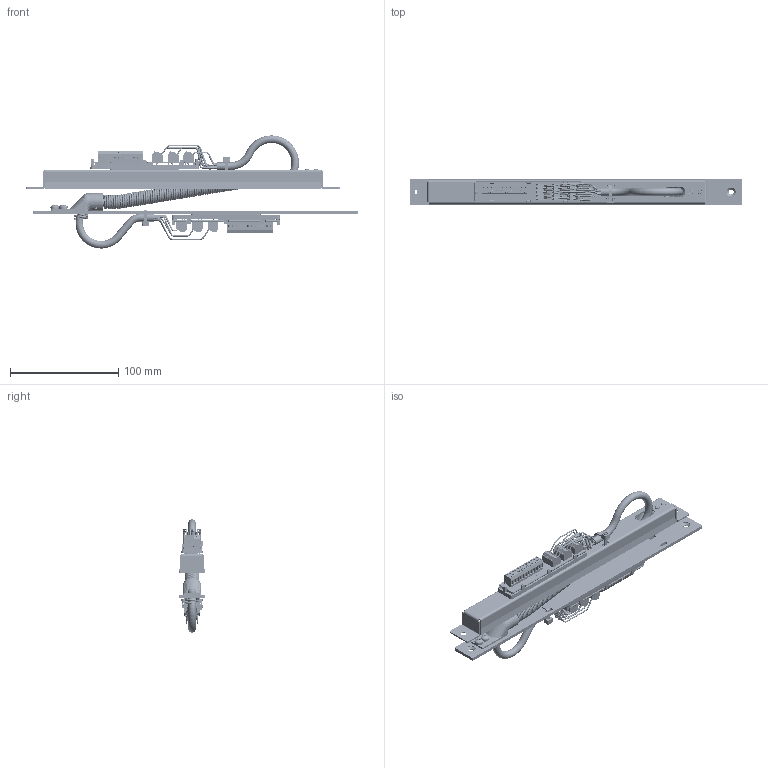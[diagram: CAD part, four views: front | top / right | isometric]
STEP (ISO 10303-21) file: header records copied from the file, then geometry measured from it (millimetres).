
FILE_DESCRIPTION((''),'2;1');
FILE_NAME('S:\Projekte\09-05_P_LINK_Kabeluebergang_M_14_91_[M_11_91]_trennbar\Zeichungen\Artikel\Endprodukt\M 15 50\M 15 50.stp','2013-06-27T09:33:38',('jsuarez'),(''),'Autodesk Inventor 2013','Autodesk Inventor 2013','');
FILE_SCHEMA(('AUTOMOTIVE_DESIGN { 1 0 10303 214 1 1 1 1 }'));
Length unit declared in the file: millimetre
Products named in the file (1): M 15 50
Bounding box: 306.5 x 24.03 x 104.47 mm (x, y, z)
Volume: 72104.9 mm3; surface area: 124209.9 mm2
Topology: 16 solids, 18 shells, 6584 faces, 17253 edges, 11238 vertices
Faces by surface type: plane 4012, bspline 1471, cylinder 753, torus 138, cone 113, revolution 89, sphere 8
Full cylindrical faces by diameter (mm): 0.8 x24, 0.9 x24, 1 x48, 1.1 x24, 1.2 x24, 1.3 x24, 1.6 x24, 1.8 x28, 2 x86, 2.2 x36, 2.5 x24, 2.8 x24, 3 x48, 3.2 x24, 3.242 x4, 3.621 x4, 4 x4, 4.5 x4, 4.7 x2, 6 x4, 7 x6, 8.3 x2
Entity records: 247152 total; most frequent: CARTESIAN_POINT 90561, ORIENTED_EDGE 32504, DIRECTION 26376, EDGE_CURVE 16252, VERTEX_POINT 10973, VECTOR 9877, LINE 9877, AXIS2_PLACEMENT_3D 8205
